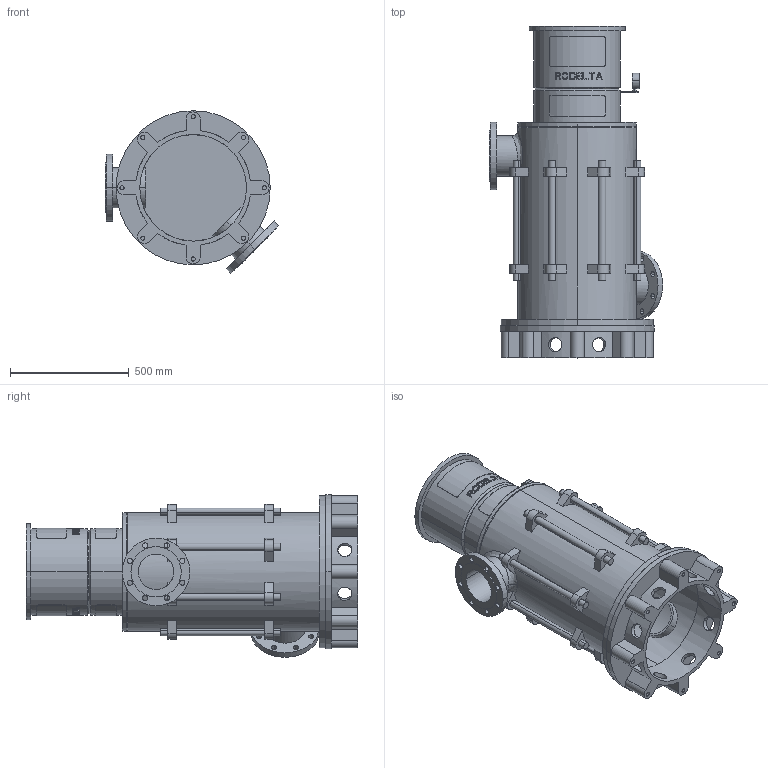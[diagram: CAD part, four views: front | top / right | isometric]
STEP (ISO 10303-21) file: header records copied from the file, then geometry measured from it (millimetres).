
FILE_DESCRIPTION((''),'2;1');
FILE_NAME('LS6_3TR_0GR_PN16_TOT_30KW','2025-10-23T11:43:16',('Lyritlocal'),(''),'CREO PARAMETRIC BY PTC INC, 2022014','CREO PARAMETRIC BY PTC INC, 2022014','');
FILE_SCHEMA(('CONFIG_CONTROL_DESIGN'));
Length unit declared in the file: millimetre
Products named in the file (1): LS6_3TR_0GR_PN16_TOT_30KW
Bounding box: 730.27 x 1399 x 685.27 mm (x, y, z)
Volume: 45458011.9 mm3; surface area: 6032130.6 mm2
Topology: 3 solids, 11 shells, 732 faces, 1889 edges, 1258 vertices
Faces by surface type: plane 438, cylinder 274, cone 12, bspline 8
Entity records: 24339 total; most frequent: CARTESIAN_POINT 6519, ORIENTED_EDGE 3746, DIRECTION 3535, EDGE_CURVE 1889, AXIS2_PLACEMENT_3D 1341, VERTEX_POINT 1258, EDGE_LOOP 895, VECTOR 853
